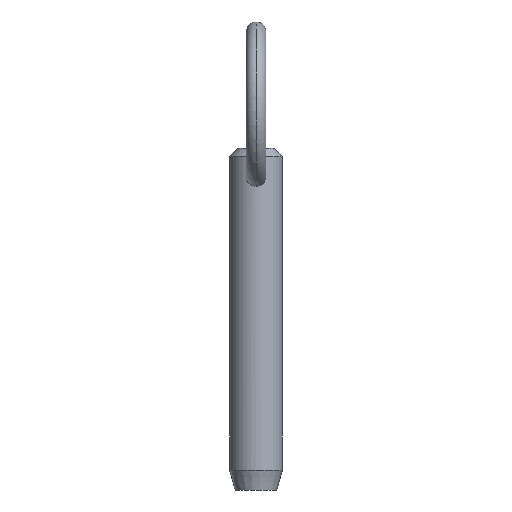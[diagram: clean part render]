
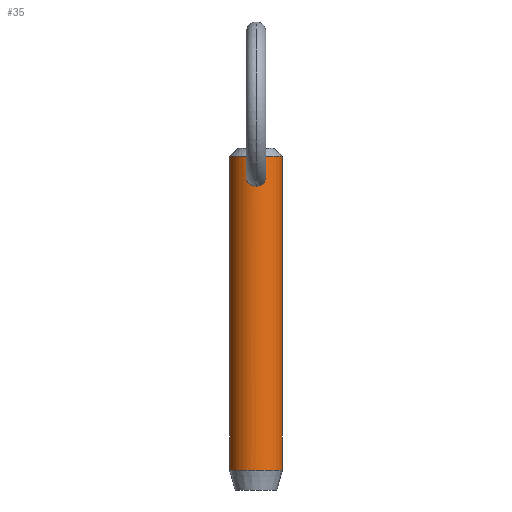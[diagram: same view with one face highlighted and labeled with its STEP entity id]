
A CAD part, front view. The second image highlights one B-rep face of the part: STEP entity #35.
In plain terms, the highlighted cylindrical face has radius 3.965 mm (diameter 7.93 mm), a partial arc.
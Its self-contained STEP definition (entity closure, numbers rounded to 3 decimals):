
#9 = EDGE_CURVE ( 'NONE', #149, #44, #169, .T. ) ;
#18 = CARTESIAN_POINT ( 'NONE',  ( 1.499, -3.671, 37.597 ) ) ;
#24 = CARTESIAN_POINT ( 'NONE',  ( 1.471, -3.682, 37.394 ) ) ;
#26 = AXIS2_PLACEMENT_3D ( 'NONE', #180, #224, #503 ) ;
#35 = ADVANCED_FACE ( 'NONE', ( #188, #373 ), #468, .T. ) ;
#38 = CARTESIAN_POINT ( 'NONE',  ( -1.379, -3.718, 37.103 ) ) ;
#43 = CARTESIAN_POINT ( 'NONE',  ( -1.335, -3.734, 37.01 ) ) ;
#44 = VERTEX_POINT ( 'NONE', #230 ) ;
#56 = ORIENTED_EDGE ( 'NONE', *, *, #9, .T. ) ;
#63 = CARTESIAN_POINT ( 'NONE',  ( 0.205, -3.965, 36.235 ) ) ;
#66 = CARTESIAN_POINT ( 'NONE',  ( 0.949, -3.851, 36.549 ) ) ;
#74 = CARTESIAN_POINT ( 'NONE',  ( -0.498, -3.935, 39.344 ) ) ;
#75 = ORIENTED_EDGE ( 'NONE', *, *, #306, .T. ) ;
#78 = CARTESIAN_POINT ( 'NONE',  ( -1.29, -3.75, 38.585 ) ) ;
#80 = CARTESIAN_POINT ( 'NONE',  ( 0., 0., 35.6 ) ) ;
#103 = CARTESIAN_POINT ( 'NONE',  ( 0.925, -3.858, 39.068 ) ) ;
#112 = CARTESIAN_POINT ( 'NONE',  ( -0.41, -3.948, 36.274 ) ) ;
#114 = VERTEX_POINT ( 'NONE', #121 ) ;
#116 = CARTESIAN_POINT ( 'NONE',  ( -1.229, -3.77, 36.839 ) ) ;
#121 = CARTESIAN_POINT ( 'NONE',  ( 3.965, 0., -6.52 ) ) ;
#124 = EDGE_CURVE ( 'NONE', #128, #247, #361, .T. ) ;
#128 = VERTEX_POINT ( 'NONE', #192 ) ;
#130 = CARTESIAN_POINT ( 'NONE',  ( -3.965, 0., -6.52 ) ) ;
#136 = CARTESIAN_POINT ( 'NONE',  ( 1.346, -3.73, 37.008 ) ) ;
#138 = VECTOR ( 'NONE', #415, 1000. ) ;
#141 = DIRECTION ( 'NONE',  ( 0., 0., -1. ) ) ;
#143 = CARTESIAN_POINT ( 'NONE',  ( 1.434, -3.697, 38.205 ) ) ;
#149 = VERTEX_POINT ( 'NONE', #279 ) ;
#154 = CARTESIAN_POINT ( 'NONE',  ( -1.488, -3.675, 38.005 ) ) ;
#158 = DIRECTION ( 'NONE',  ( 0., 0., -1. ) ) ;
#169 = B_SPLINE_CURVE_WITH_KNOTS ( 'NONE', 3,
 ( #354, #395, #112, #507, #509, #229, #116, #43, #38, #185, #348, #154, #424, #78, #391, #393, #311, #74, #431, #470, #307, #187 ),
 .UNSPECIFIED., .F., .F.,
 ( 4, 2, 2, 2, 2, 2, 2, 2, 2, 2, 4 ),
 ( 0.009, 0.01, 0.01, 0.011, 0.011, 0.012, 0.012, 0.013, 0.013, 0.014, 0.014 ),
 .UNSPECIFIED. ) ;
#172 = CARTESIAN_POINT ( 'NONE',  ( 1.291, -3.75, 38.583 ) ) ;
#174 = EDGE_LOOP ( 'NONE', ( #288, #275, #75, #317 ) ) ;
#180 = CARTESIAN_POINT ( 'NONE',  ( 0., 0., -6.52 ) ) ;
#183 = LINE ( 'NONE', #292, #138 ) ;
#185 = CARTESIAN_POINT ( 'NONE',  ( -1.48, -3.679, 37.389 ) ) ;
#187 = CARTESIAN_POINT ( 'NONE',  ( 0., -3.965, 39.447 ) ) ;
#188 = FACE_OUTER_BOUND ( 'NONE', #174, .T. ) ;
#191 = DIRECTION ( 'NONE',  ( -1., 0., 0. ) ) ;
#192 = CARTESIAN_POINT ( 'NONE',  ( 3.965, 0., 40.75 ) ) ;
#208 = CARTESIAN_POINT ( 'NONE',  ( 0.782, -3.888, 36.437 ) ) ;
#212 = CARTESIAN_POINT ( 'NONE',  ( 1.503, -3.669, 37.699 ) ) ;
#215 = CARTESIAN_POINT ( 'NONE',  ( 0.102, -3.965, 39.447 ) ) ;
#224 = DIRECTION ( 'NONE',  ( 0., 0., 1. ) ) ;
#228 = VERTEX_POINT ( 'NONE', #130 ) ;
#229 = CARTESIAN_POINT ( 'NONE',  ( -1.168, -3.79, 36.759 ) ) ;
#230 = CARTESIAN_POINT ( 'NONE',  ( 0., -3.965, 39.447 ) ) ;
#247 = VERTEX_POINT ( 'NONE', #484 ) ;
#250 = CARTESIAN_POINT ( 'NONE',  ( 0.693, -3.905, 36.39 ) ) ;
#256 = CARTESIAN_POINT ( 'NONE',  ( 0., -3.965, 39.447 ) ) ;
#257 = CARTESIAN_POINT ( 'NONE',  ( 1.493, -3.673, 37.904 ) ) ;
#262 = AXIS2_PLACEMENT_3D ( 'NONE', #80, #506, #191 ) ;
#275 = ORIENTED_EDGE ( 'NONE', *, *, #124, .T. ) ;
#279 = CARTESIAN_POINT ( 'NONE',  ( 0., -3.965, 36.235 ) ) ;
#287 = CARTESIAN_POINT ( 'NONE',  ( 1.237, -3.77, 36.831 ) ) ;
#288 = ORIENTED_EDGE ( 'NONE', *, *, #319, .F. ) ;
#290 = CARTESIAN_POINT ( 'NONE',  ( 0.409, -3.948, 36.274 ) ) ;
#291 = CARTESIAN_POINT ( 'NONE',  ( 1.447, -3.692, 37.293 ) ) ;
#292 = CARTESIAN_POINT ( 'NONE',  ( 3.965, 0., 35.6 ) ) ;
#295 = CARTESIAN_POINT ( 'NONE',  ( -3.965, 0., 35.6 ) ) ;
#306 = EDGE_CURVE ( 'NONE', #247, #228, #333, .T. ) ;
#307 = CARTESIAN_POINT ( 'NONE',  ( -0.102, -3.965, 39.447 ) ) ;
#310 = EDGE_LOOP ( 'NONE', ( #325, #56 ) ) ;
#311 = CARTESIAN_POINT ( 'NONE',  ( -0.77, -3.894, 39.2 ) ) ;
#317 = ORIENTED_EDGE ( 'NONE', *, *, #505, .T. ) ;
#319 = EDGE_CURVE ( 'NONE', #128, #114, #183, .T. ) ;
#325 = ORIENTED_EDGE ( 'NONE', *, *, #390, .T. ) ;
#333 = LINE ( 'NONE', #295, #419 ) ;
#348 = CARTESIAN_POINT ( 'NONE',  ( -1.508, -3.667, 37.597 ) ) ;
#354 = CARTESIAN_POINT ( 'NONE',  ( 0., -3.965, 36.235 ) ) ;
#358 = CARTESIAN_POINT ( 'NONE',  ( 0., 0., 40.75 ) ) ;
#361 = CIRCLE ( 'NONE', #403, 3.965 ) ;
#363 = DIRECTION ( 'NONE',  ( 1., 0., 0. ) ) ;
#373 = FACE_BOUND ( 'NONE', #310, .T. ) ;
#376 = CARTESIAN_POINT ( 'NONE',  ( 0.77, -3.894, 39.2 ) ) ;
#377 = CARTESIAN_POINT ( 'NONE',  ( 0.205, -3.961, 39.434 ) ) ;
#383 = CIRCLE ( 'NONE', #26, 3.965 ) ;
#390 = EDGE_CURVE ( 'NONE', #44, #149, #459, .T. ) ;
#391 = CARTESIAN_POINT ( 'NONE',  ( -1.186, -3.786, 38.76 ) ) ;
#393 = CARTESIAN_POINT ( 'NONE',  ( -0.925, -3.858, 39.068 ) ) ;
#395 = CARTESIAN_POINT ( 'NONE',  ( -0.205, -3.965, 36.235 ) ) ;
#403 = AXIS2_PLACEMENT_3D ( 'NONE', #358, #158, #363 ) ;
#409 = CARTESIAN_POINT ( 'NONE',  ( 0.498, -3.935, 39.344 ) ) ;
#410 = CARTESIAN_POINT ( 'NONE',  ( 1.186, -3.786, 38.759 ) ) ;
#415 = DIRECTION ( 'NONE',  ( 0., 0., -1. ) ) ;
#419 = VECTOR ( 'NONE', #141, 1000. ) ;
#424 = CARTESIAN_POINT ( 'NONE',  ( -1.441, -3.695, 38.208 ) ) ;
#431 = CARTESIAN_POINT ( 'NONE',  ( -0.403, -3.946, 39.382 ) ) ;
#450 = CARTESIAN_POINT ( 'NONE',  ( 1.028, -3.83, 36.615 ) ) ;
#453 = CARTESIAN_POINT ( 'NONE',  ( 1.479, -3.679, 38.007 ) ) ;
#458 = CARTESIAN_POINT ( 'NONE',  ( 1.404, -3.708, 38.301 ) ) ;
#459 = B_SPLINE_CURVE_WITH_KNOTS ( 'NONE', 3,
 ( #256, #215, #377, #494, #409, #376, #103, #410, #172, #458, #143, #453, #257, #212, #18, #24, #291, #136, #287, #450, #66, #208, #250, #290, #63, #504 ),
 .UNSPECIFIED., .F., .F.,
 ( 4, 2, 2, 2, 2, 2, 2, 2, 2, 2, 2, 2, 4 ),
 ( 0.004, 0.005, 0.005, 0.005, 0.006, 0.006, 0.007, 0.007, 0.007, 0.008, 0.008, 0.008, 0.009 ),
 .UNSPECIFIED. ) ;
#468 = CYLINDRICAL_SURFACE ( 'NONE', #262, 3.965 ) ;
#470 = CARTESIAN_POINT ( 'NONE',  ( -0.206, -3.961, 39.434 ) ) ;
#484 = CARTESIAN_POINT ( 'NONE',  ( -3.965, 0., 40.75 ) ) ;
#494 = CARTESIAN_POINT ( 'NONE',  ( 0.404, -3.946, 39.382 ) ) ;
#503 = DIRECTION ( 'NONE',  ( -1., 0., 0. ) ) ;
#504 = CARTESIAN_POINT ( 'NONE',  ( 0., -3.965, 36.235 ) ) ;
#505 = EDGE_CURVE ( 'NONE', #228, #114, #383, .T. ) ;
#506 = DIRECTION ( 'NONE',  ( 0., 0., -1. ) ) ;
#507 = CARTESIAN_POINT ( 'NONE',  ( -0.788, -3.891, 36.428 ) ) ;
#509 = CARTESIAN_POINT ( 'NONE',  ( -0.957, -3.85, 36.541 ) ) ;
